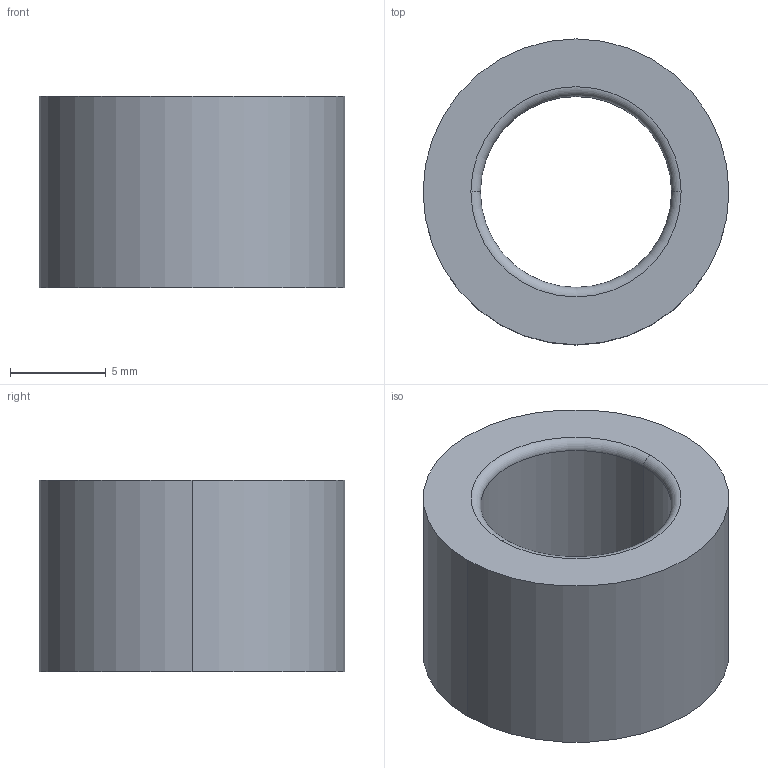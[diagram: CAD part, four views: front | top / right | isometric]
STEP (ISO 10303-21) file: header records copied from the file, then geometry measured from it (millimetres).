
FILE_DESCRIPTION(/* description */ (''),/* implementation_level */ '2;1');
FILE_NAME(/* name */ '3d_sgbz10-10_00297_r00.stp',/* time_stamp */ '2011-01-10T14:11:12+09:00',/* author */ ('MISUMI'),/* organization */ (''),/* preprocessor_version */ 'ST-DEVELOPER v11',/* originating_system */ 'UGS - NX 5.0',/* authorisation */ '');
FILE_SCHEMA (('CONFIG_CONTROL_DESIGN'));
Length unit declared in the file: millimetre
Products named in the file (1): 3d_sgbz10-10_00297_r00
Bounding box: 16 x 16 x 10 mm (x, y, z)
Volume: 1221.8 mm3; surface area: 1048.6 mm2
Topology: 1 solids, 1 shells, 10 faces, 20 edges, 12 vertices
Faces by surface type: cylinder 4, torus 4, plane 2
Entity records: 358 total; most frequent: DIRECTION 58, CARTESIAN_POINT 43, ORIENTED_EDGE 40, AXIS2_PLACEMENT_3D 27, EDGE_CURVE 20, CIRCLE 16, EDGE_LOOP 12, VERTEX_POINT 12
